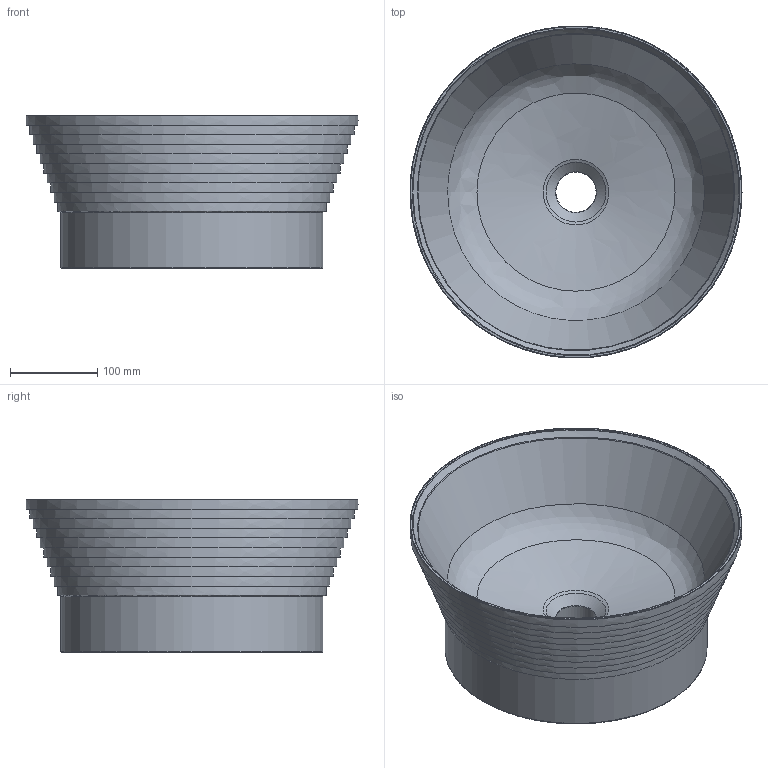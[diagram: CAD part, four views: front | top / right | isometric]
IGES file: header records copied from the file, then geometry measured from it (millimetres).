
Global section: file name: C:\Users\hp\Desktop\00627_Mimika\00627_Mimika.igs; native system: Rhinoceros ( Sep 10 2024 ); preprocessor: Trout Lake IGES 012 Sep 10 2024; date: 241016.083706; units: millimetre
Bounding box: 380 x 380 x 175 mm (x, y, z)
Surface area: 655836.3 mm2 (no closed solid volume)
Topology: 0 solids, 0 shells, 52 faces, 156 edges, 104 vertices
Faces by surface type: bspline 52
